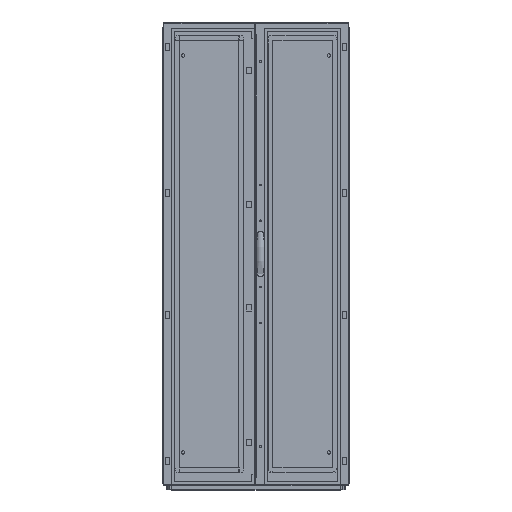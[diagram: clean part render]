
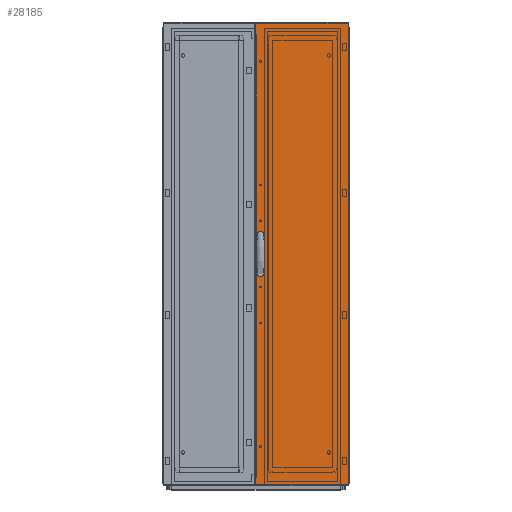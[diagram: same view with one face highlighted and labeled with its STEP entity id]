
A CAD part, top view. The second image highlights one B-rep face of the part: STEP entity #28185.
In plain terms, the highlighted planar face has unit normal (0, 0, 1) as drawn and (0, 0, -1) by its records, which use the part's own axes.
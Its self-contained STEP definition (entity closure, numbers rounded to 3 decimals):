
#341=CIRCLE('',#31742,2.6);
#342=CIRCLE('',#31743,2.6);
#2904=ORIENTED_EDGE('',*,*,#9924,.T.);
#2905=ORIENTED_EDGE('',*,*,#9925,.T.);
#2906=ORIENTED_EDGE('',*,*,#9926,.T.);
#2907=ORIENTED_EDGE('',*,*,#9927,.T.);
#2908=ORIENTED_EDGE('',*,*,#9928,.T.);
#2909=ORIENTED_EDGE('',*,*,#9929,.T.);
#2910=ORIENTED_EDGE('',*,*,#9930,.T.);
#2911=ORIENTED_EDGE('',*,*,#9931,.T.);
#2912=ORIENTED_EDGE('',*,*,#9932,.T.);
#2913=ORIENTED_EDGE('',*,*,#9933,.T.);
#2914=ORIENTED_EDGE('',*,*,#9934,.T.);
#2915=ORIENTED_EDGE('',*,*,#9935,.T.);
#2916=ORIENTED_EDGE('',*,*,#9936,.T.);
#2917=ORIENTED_EDGE('',*,*,#9937,.T.);
#2918=ORIENTED_EDGE('',*,*,#9938,.T.);
#2919=ORIENTED_EDGE('',*,*,#9939,.T.);
#2920=ORIENTED_EDGE('',*,*,#9940,.T.);
#2921=ORIENTED_EDGE('',*,*,#9941,.F.);
#2922=ORIENTED_EDGE('',*,*,#9942,.F.);
#2923=ORIENTED_EDGE('',*,*,#9943,.T.);
#2924=ORIENTED_EDGE('',*,*,#9944,.T.);
#2925=ORIENTED_EDGE('',*,*,#9945,.T.);
#9924=EDGE_CURVE('',#13612,#13613,#16547,.T.);
#9925=EDGE_CURVE('',#13613,#13614,#16548,.T.);
#9926=EDGE_CURVE('',#13614,#13615,#16549,.T.);
#9927=EDGE_CURVE('',#13615,#13616,#16550,.T.);
#9928=EDGE_CURVE('',#13616,#13617,#16551,.T.);
#9929=EDGE_CURVE('',#13617,#13618,#16552,.T.);
#9930=EDGE_CURVE('',#13618,#13619,#16553,.T.);
#9931=EDGE_CURVE('',#13619,#13620,#16554,.T.);
#9932=EDGE_CURVE('',#13620,#13621,#16555,.T.);
#9933=EDGE_CURVE('',#13621,#13622,#16556,.T.);
#9934=EDGE_CURVE('',#13622,#13623,#16557,.T.);
#9935=EDGE_CURVE('',#13623,#13624,#16558,.T.);
#9936=EDGE_CURVE('',#13624,#13625,#16559,.T.);
#9937=EDGE_CURVE('',#13625,#13626,#16560,.T.);
#9938=EDGE_CURVE('',#13626,#13627,#16561,.T.);
#9939=EDGE_CURVE('',#13627,#13612,#16562,.T.);
#9940=EDGE_CURVE('',#13628,#13629,#16563,.T.);
#9941=EDGE_CURVE('',#13630,#13629,#16564,.T.);
#9942=EDGE_CURVE('',#13631,#13630,#16565,.T.);
#9943=EDGE_CURVE('',#13631,#13628,#16566,.T.);
#9944=EDGE_CURVE('',#13632,#13632,#341,.T.);
#9945=EDGE_CURVE('',#13633,#13633,#342,.T.);
#13612=VERTEX_POINT('',#42969);
#13613=VERTEX_POINT('',#42970);
#13614=VERTEX_POINT('',#42972);
#13615=VERTEX_POINT('',#42974);
#13616=VERTEX_POINT('',#42976);
#13617=VERTEX_POINT('',#42978);
#13618=VERTEX_POINT('',#42980);
#13619=VERTEX_POINT('',#42982);
#13620=VERTEX_POINT('',#42984);
#13621=VERTEX_POINT('',#42986);
#13622=VERTEX_POINT('',#42988);
#13623=VERTEX_POINT('',#42990);
#13624=VERTEX_POINT('',#42992);
#13625=VERTEX_POINT('',#42994);
#13626=VERTEX_POINT('',#42996);
#13627=VERTEX_POINT('',#42998);
#13628=VERTEX_POINT('',#43001);
#13629=VERTEX_POINT('',#43002);
#13630=VERTEX_POINT('',#43004);
#13631=VERTEX_POINT('',#43006);
#13632=VERTEX_POINT('',#43009);
#13633=VERTEX_POINT('',#43011);
#16547=LINE('',#42968,#20166);
#16548=LINE('',#42971,#20167);
#16549=LINE('',#42973,#20168);
#16550=LINE('',#42975,#20169);
#16551=LINE('',#42977,#20170);
#16552=LINE('',#42979,#20171);
#16553=LINE('',#42981,#20172);
#16554=LINE('',#42983,#20173);
#16555=LINE('',#42985,#20174);
#16556=LINE('',#42987,#20175);
#16557=LINE('',#42989,#20176);
#16558=LINE('',#42991,#20177);
#16559=LINE('',#42993,#20178);
#16560=LINE('',#42995,#20179);
#16561=LINE('',#42997,#20180);
#16562=LINE('',#42999,#20181);
#16563=LINE('',#43000,#20182);
#16564=LINE('',#43003,#20183);
#16565=LINE('',#43005,#20184);
#16566=LINE('',#43007,#20185);
#20166=VECTOR('',#35151,1000.);
#20167=VECTOR('',#35152,1000.);
#20168=VECTOR('',#35153,1000.);
#20169=VECTOR('',#35154,1000.);
#20170=VECTOR('',#35155,1000.);
#20171=VECTOR('',#35156,1000.);
#20172=VECTOR('',#35157,1000.);
#20173=VECTOR('',#35158,1000.);
#20174=VECTOR('',#35159,1000.);
#20175=VECTOR('',#35160,1000.);
#20176=VECTOR('',#35161,1000.);
#20177=VECTOR('',#35162,1000.);
#20178=VECTOR('',#35163,1000.);
#20179=VECTOR('',#35164,1000.);
#20180=VECTOR('',#35165,1000.);
#20181=VECTOR('',#35166,1000.);
#20182=VECTOR('',#35167,1000.);
#20183=VECTOR('',#35168,1000.);
#20184=VECTOR('',#35169,1000.);
#20185=VECTOR('',#35170,1000.);
#23353=EDGE_LOOP('',(#2904,#2905,#2906,#2907,#2908,#2909,#2910,#2911,#2912,
#2913,#2914,#2915,#2916,#2917,#2918,#2919));
#23354=EDGE_LOOP('',(#2920,#2921,#2922,#2923));
#23355=EDGE_LOOP('',(#2924));
#23356=EDGE_LOOP('',(#2925));
#25149=FACE_BOUND('',#23353,.T.);
#25150=FACE_BOUND('',#23354,.T.);
#25151=FACE_BOUND('',#23355,.T.);
#25152=FACE_BOUND('',#23356,.T.);
#26799=PLANE('',#31741);
#28185=ADVANCED_FACE('',(#25149,#25150,#25151,#25152),#26799,.F.);
#31741=AXIS2_PLACEMENT_3D('',#42967,#35149,#35150);
#31742=AXIS2_PLACEMENT_3D('',#43008,#35171,#35172);
#31743=AXIS2_PLACEMENT_3D('',#43010,#35173,#35174);
#35149=DIRECTION('',(0.,0.,1.));
#35150=DIRECTION('',(1.,0.,0.));
#35151=DIRECTION('',(0.,-1.,0.));
#35152=DIRECTION('',(0.342,-0.94,0.));
#35153=DIRECTION('',(1.,0.,0.));
#35154=DIRECTION('',(0.,1.,0.));
#35155=DIRECTION('',(1.,0.,0.));
#35156=DIRECTION('',(0.,-1.,0.));
#35157=DIRECTION('',(1.,0.,0.));
#35158=DIRECTION('',(0.342,0.94,0.));
#35159=DIRECTION('',(0.,1.,0.));
#35160=DIRECTION('',(-0.342,0.94,0.));
#35161=DIRECTION('',(-1.,0.,0.));
#35162=DIRECTION('',(0.,-1.,0.));
#35163=DIRECTION('',(-1.,0.,0.));
#35164=DIRECTION('',(0.,1.,0.));
#35165=DIRECTION('',(-1.,0.,0.));
#35166=DIRECTION('',(-0.342,-0.94,0.));
#35167=DIRECTION('',(-1.,0.,0.));
#35168=DIRECTION('',(0.,-1.,0.));
#35169=DIRECTION('',(-1.,0.,0.));
#35170=DIRECTION('',(0.,-1.,0.));
#35171=DIRECTION('',(0.,0.,1.));
#35172=DIRECTION('',(1.,0.,0.));
#35173=DIRECTION('',(0.,0.,1.));
#35174=DIRECTION('',(1.,0.,0.));
#42967=CARTESIAN_POINT('',(199.,1982.,-16.8));
#42968=CARTESIAN_POINT('',(165.45,1056.256,-16.8));
#42969=CARTESIAN_POINT('',(165.45,1056.256,-16.8));
#42970=CARTESIAN_POINT('',(165.45,925.744,-16.8));
#42971=CARTESIAN_POINT('',(165.45,925.744,-16.8));
#42972=CARTESIAN_POINT('',(167.45,920.25,-16.8));
#42973=CARTESIAN_POINT('',(167.45,920.25,-16.8));
#42974=CARTESIAN_POINT('',(172.7,920.25,-16.8));
#42975=CARTESIAN_POINT('',(172.7,920.25,-16.8));
#42976=CARTESIAN_POINT('',(172.7,928.,-16.8));
#42977=CARTESIAN_POINT('',(172.7,928.,-16.8));
#42978=CARTESIAN_POINT('',(183.7,928.,-16.8));
#42979=CARTESIAN_POINT('',(183.7,928.,-16.8));
#42980=CARTESIAN_POINT('',(183.7,920.25,-16.8));
#42981=CARTESIAN_POINT('',(183.7,920.25,-16.8));
#42982=CARTESIAN_POINT('',(188.95,920.25,-16.8));
#42983=CARTESIAN_POINT('',(188.95,920.25,-16.8));
#42984=CARTESIAN_POINT('',(190.95,925.744,-16.8));
#42985=CARTESIAN_POINT('',(190.95,925.744,-16.8));
#42986=CARTESIAN_POINT('',(190.95,1056.256,-16.8));
#42987=CARTESIAN_POINT('',(190.95,1056.256,-16.8));
#42988=CARTESIAN_POINT('',(188.95,1061.75,-16.8));
#42989=CARTESIAN_POINT('',(188.95,1061.75,-16.8));
#42990=CARTESIAN_POINT('',(183.7,1061.75,-16.8));
#42991=CARTESIAN_POINT('',(183.7,1061.75,-16.8));
#42992=CARTESIAN_POINT('',(183.7,1054.,-16.8));
#42993=CARTESIAN_POINT('',(183.7,1054.,-16.8));
#42994=CARTESIAN_POINT('',(172.7,1054.,-16.8));
#42995=CARTESIAN_POINT('',(172.7,1054.,-16.8));
#42996=CARTESIAN_POINT('',(172.7,1061.75,-16.8));
#42997=CARTESIAN_POINT('',(172.7,1061.75,-16.8));
#42998=CARTESIAN_POINT('',(167.45,1061.75,-16.8));
#42999=CARTESIAN_POINT('',(167.45,1061.75,-16.8));
#43000=CARTESIAN_POINT('',(199.,0.,-16.8));
#43001=CARTESIAN_POINT('',(199.,0.,-16.8));
#43002=CARTESIAN_POINT('',(-199.,0.,-16.8));
#43003=CARTESIAN_POINT('',(-199.,1982.,-16.8));
#43004=CARTESIAN_POINT('',(-199.,1982.,-16.8));
#43005=CARTESIAN_POINT('',(199.,1982.,-16.8));
#43006=CARTESIAN_POINT('',(199.,1982.,-16.8));
#43007=CARTESIAN_POINT('',(199.,1982.,-16.8));
#43008=CARTESIAN_POINT('',(178.2,1061.,-16.8));
#43009=CARTESIAN_POINT('',(180.8,1061.,-16.8));
#43010=CARTESIAN_POINT('',(178.2,921.,-16.8));
#43011=CARTESIAN_POINT('',(180.8,921.,-16.8));
